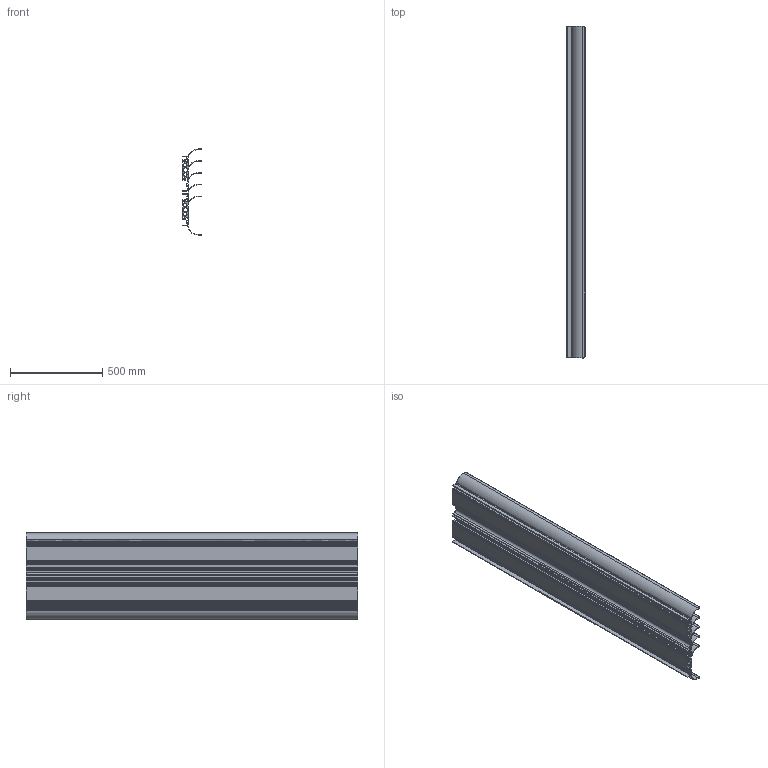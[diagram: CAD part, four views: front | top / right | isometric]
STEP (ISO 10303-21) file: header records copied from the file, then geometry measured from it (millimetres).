
FILE_DESCRIPTION (( 'STEP AP203' ), '1' );
FILE_NAME ('FBRAWDX1802.STEP', '2026-03-03T14:45:48', ( '' ), ( '' ), 'SwSTEP 2.0', 'SolidWorks 2025', '' );
FILE_SCHEMA (( 'CONFIG_CONTROL_DESIGN' ));
Length unit declared in the file: millimetre
Products named in the file (3): ESTRUSO BRASILIA_1800DX; FBRAWDX1802; ESTRUSO BRASILIA WIDE_1800
Assembly tree (2 placements, depth 2):
  FBRAWDX1802
    ESTRUSO BRASILIA WIDE_1800
    ESTRUSO BRASILIA_1800DX
Bounding box: 101 x 1800 x 467 mm (x, y, z)
Volume: 12189357.1 mm3; surface area: 5152091.9 mm2
Topology: 2 solids, 2 shells, 307 faces, 915 edges, 612 vertices
Faces by surface type: plane 128, cylinder 110, bspline 69
Entity records: 13764 total; most frequent: CARTESIAN_POINT 5506, ORIENTED_EDGE 1830, DIRECTION 1441, EDGE_CURVE 915, VERTEX_POINT 612, VECTOR 551, LINE 551, AXIS2_PLACEMENT_3D 445
